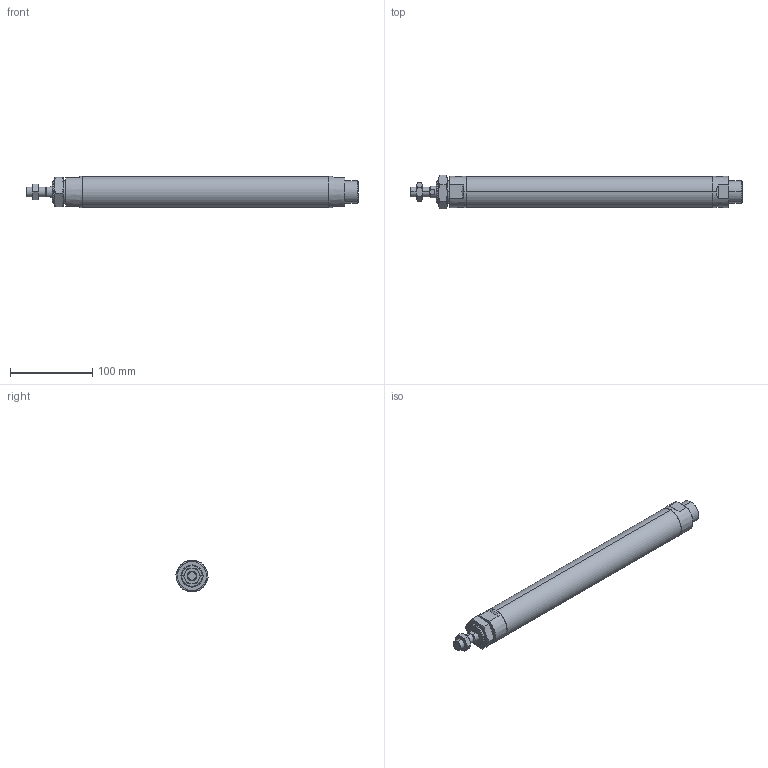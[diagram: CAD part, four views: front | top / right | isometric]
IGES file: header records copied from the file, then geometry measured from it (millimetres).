
Start section: SolidWorks IGES file using analytic representation for surfaces
Global section: file name: C:\Users\Toshiba\Desktop\J#2-32-250-N.IGS; native system: SolidWorks 2014; preprocessor: SolidWorks 2014; author: Toshiba; date: 160308.155016; units: millimetre
Bounding box: 403 x 40.33 x 38 mm (x, y, z)
Surface area: 51553.2 mm2 (no closed solid volume)
Topology: 0 solids, 0 shells, 94 faces, 1652 edges, 1648 vertices
Faces by surface type: bspline 57, revolution 37
